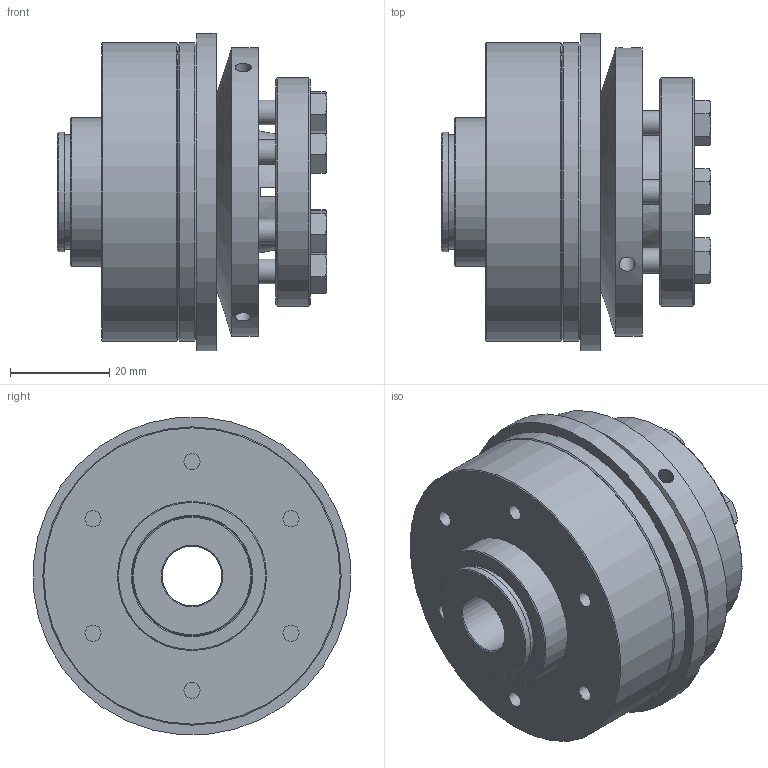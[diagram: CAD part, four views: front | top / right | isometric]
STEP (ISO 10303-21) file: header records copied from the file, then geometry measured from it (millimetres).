
FILE_DESCRIPTION( ( 'Unknown' ), '1' );
FILE_NAME( 'C:/Users/TWalzel/Documents/CAD-Daten/KBK-CA/30/KBK C-A-30.stp', 'Unknown', ( 'Unknown' ), ( 'Unknown' ), 'PSStep 16.0.42', 'Unknown', ' ' );
FILE_SCHEMA( ( 'AUTOMOTIVE_DESIGN { 1 0 10303 214 1 1 1 1 }' ) );
Length unit declared in the file: millimetre
Products named in the file (11): Stellring 30; Druckring L-A-30; Druckring 30; din_en_24017_m5x16; Assem1; Flansch-Gleitlager CK-30; Grundkörper C-A-30_1
Assembly tree (15 placements, depth 3):
  Assem1
    Flansch-Gleitlager CK-30
    Grundkörper C-A-30_1
    Stellring 30
      Stellring 30
    Druckring 30
      Druckring 30
    Druckring L-A-30
      Druckring L-A-30
    din_en_24017_m5x16  x6
      din_en_24017_m5x16
Bounding box: 54.3 x 63.81 x 63.81 mm (x, y, z)
Volume: 97613.2 mm3; surface area: 40723.6 mm2
Topology: 11 solids, 11 shells, 240 faces, 506 edges, 321 vertices
Faces by surface type: plane 109, cone 68, cylinder 55, torus 8
Full cylindrical faces by diameter (mm): 3.242 x15, 4.134 x6, 5 x6, 5.5 x6, 6.88 x6, 12 x1, 23 x1, 24 x3, 24.7 x1, 30 x1, 38 x2, 40 x1, 46 x1, 52 x1, 58 x1, 60 x2, 64 x1
Entity records: 4718 total; most frequent: CARTESIAN_POINT 848, DIRECTION 616, ORIENTED_EDGE 388, AXIS2_PLACEMENT_3D 290, EDGE_LOOP 244, EDGE_CURVE 194, FACE_OUTER_BOUND 178, VERTEX_POINT 162
